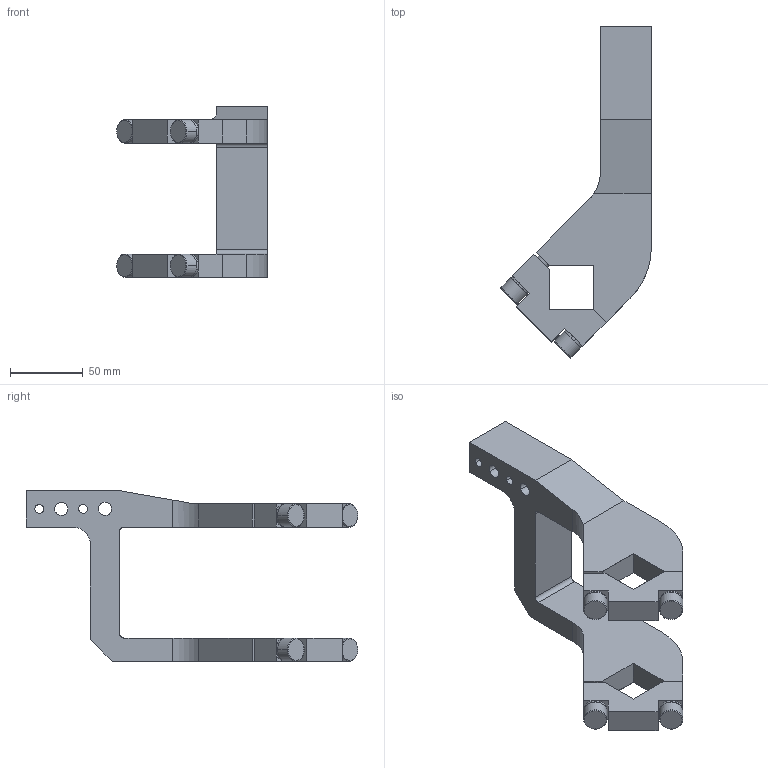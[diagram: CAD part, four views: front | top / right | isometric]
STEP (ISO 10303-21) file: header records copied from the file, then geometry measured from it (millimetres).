
FILE_DESCRIPTION(('CATIA V5 STEP Exchange'),'2;1');
FILE_NAME('E:\clampact\CLAMPACT\clampact\catalog\Clampact Arm\Arm 3D\Clampact Arm\arm_K80_20_A12_Clampact.stp','2022-12-06T08:53:51+00:00',('none'),('none'),'CATIA Version 5 Release 19 SP 6 (IN-10)','CATIA V5 STEP AP203','none');
FILE_SCHEMA(('CONFIG_CONTROL_DESIGN'));
Length unit declared in the file: millimetre
Products named in the file (1): K80_20_A12_Clampact-柯莱普
Bounding box: 103.33 x 227.33 x 117 mm (x, y, z)
Volume: 362061.5 mm3; surface area: 71692 mm2
Topology: 1 solids, 5 shells, 158 faces, 406 edges, 252 vertices
Faces by surface type: plane 79, cylinder 47, cone 20, torus 12
Entity records: 4559 total; most frequent: CARTESIAN_POINT 994, ORIENTED_EDGE 796, DIRECTION 581, EDGE_CURVE 398, VERTEX_POINT 252, VECTOR 237, LINE 237, AXIS2_PLACEMENT_3D 234
